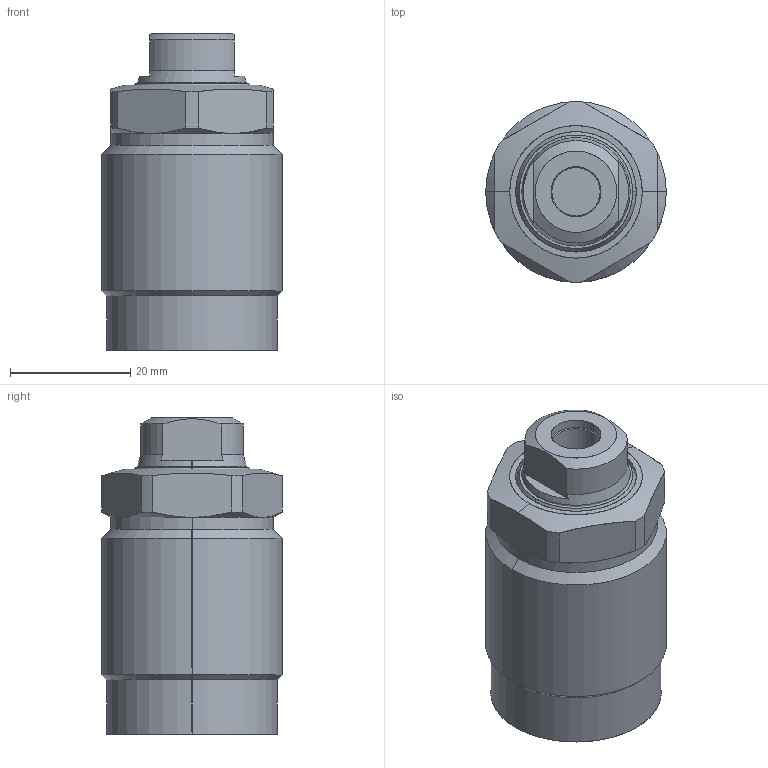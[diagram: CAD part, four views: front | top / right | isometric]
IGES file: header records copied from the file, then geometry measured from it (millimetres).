
Start section: SolidWorks IGES file using analytic representation for surfaces
Global section: file name: D:\abhilash\nijil\cylinder\Clasys1\dp converted\04\pt\0402\0102-0402.IGS; native system: SolidWorks 2010; preprocessor: SolidWorks 2010; author: nidheesh; date: 130730.113440; units: millimetre
Bounding box: 30 x 30 x 52.5 mm (x, y, z)
Surface area: 7211.1 mm2 (no closed solid volume)
Topology: 0 solids, 0 shells, 74 faces, 984 edges, 984 vertices
Faces by surface type: revolution 50, bspline 24
